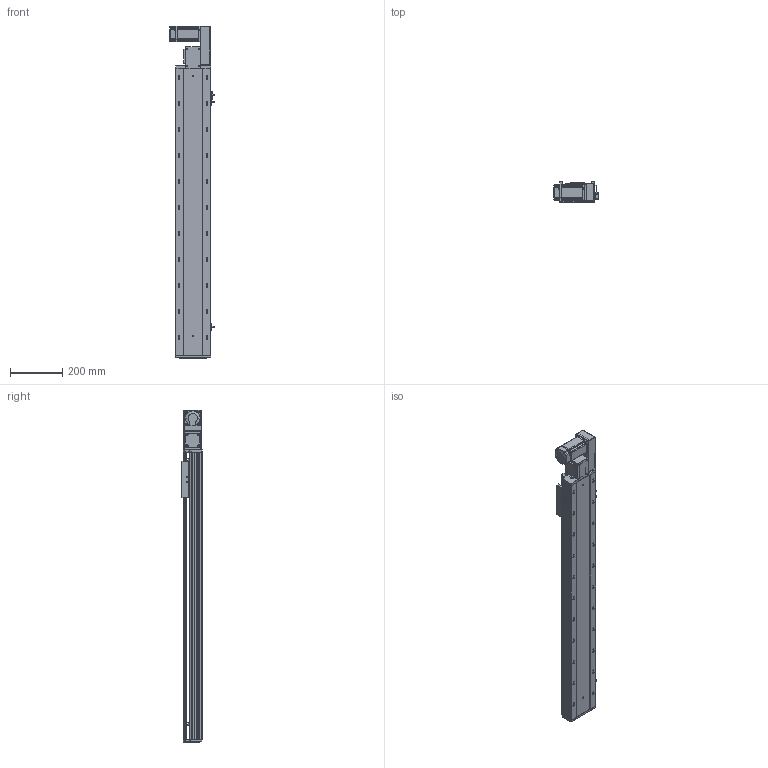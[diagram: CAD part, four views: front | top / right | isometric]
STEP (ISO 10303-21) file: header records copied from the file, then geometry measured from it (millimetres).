
FILE_DESCRIPTION (( 'STEP AP203' ), '1' );
FILE_NAME ('RY140-T-300-RK.SLDASM_850.step', '2021-03-01T06:45:36', ( '盈信电脑' ), ( '东莞市道滘镇水果街19号' ), 'SwSTEP 2.0', 'SolidWorks 2012', '' );
FILE_SCHEMA (( 'CONFIG_CONTROL_DESIGN' ));
Length unit declared in the file: millimetre
Products named in the file (17): RY140-T-300-RK.SLDASM_850; RY120-T主同步轮轴承压盖; 15; RY140-T萇儂假蚾啣; RY120-T蹟翐M4; RY140-T翋肮謫裔啣; RY140-T翋肮祭謫盓傅釱; 滅袉蝶18-10; RY140-T萇儂欶; RY120外置感应片(140共用）; RY120-T肮祭湍揤踡輸1; RY120-T肮祭湍揤踡輸2; RY140肮祭謫臏賑輸; RY140-T-300-DR倰第奻裔啣_850; 覜茼ん672; RY140綴裔啣; RY140-T-300-DR倰第菁釱_850
Assembly tree (22 placements, depth 2):
  RY140-T-300-RK.SLDASM_850
    RY140-T-300-DR倰第菁釱_850
    RY140肮祭謫臏賑輸
    RY140-T-300-DR倰第奻裔啣_850
    RY140綴裔啣
    覜茼ん672  x3
    RY120外置感应片(140共用）
    RY120-T肮祭湍揤踡輸2
    RY120-T肮祭湍揤踡輸1
    RY140-T翋肮祭謫盓傅釱
    滅袉蝶18-10  x2
    RY140-T翋肮謫裔啣
    RY140-T萇儂欶
    RY140-T萇儂假蚾啣
    RY120-T蹟翐M4  x4
    15
    RY120-T主同步轮轴承压盖
Bounding box: 170.7 x 78 x 1276.5 mm (x, y, z)
Volume: 3631406.8 mm3; surface area: 1378908.4 mm2
Topology: 22 solids, 22 shells, 2711 faces, 7477 edges, 4808 vertices
Faces by surface type: plane 1381, cylinder 1020, cone 210, bspline 100
Entity records: 86398 total; most frequent: CARTESIAN_POINT 21287, ORIENTED_EDGE 13458, DIRECTION 12701, EDGE_CURVE 6729, VERTEX_POINT 4407, VECTOR 4257, LINE 4257, AXIS2_PLACEMENT_3D 4222
